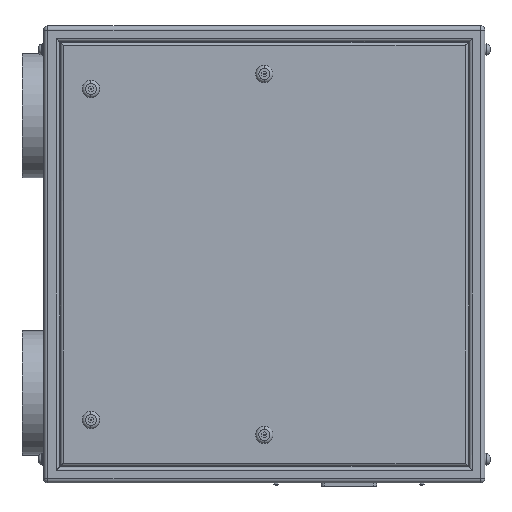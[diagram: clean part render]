
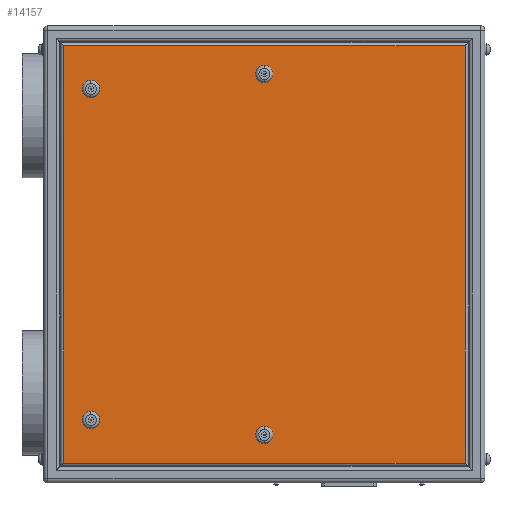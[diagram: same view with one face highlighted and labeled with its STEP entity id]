
A CAD part, left-side view. The second image highlights one B-rep face of the part: STEP entity #14157.
In plain terms, the highlighted planar face has unit normal (-1, 0, 0).
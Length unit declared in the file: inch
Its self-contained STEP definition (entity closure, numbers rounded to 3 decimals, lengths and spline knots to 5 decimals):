
#190 = DIRECTION ( 'NONE',  ( 0., 0., -1. ) ) ;
#276 = DIRECTION ( 'NONE',  ( 1., 0., 0. ) ) ;
#437 = CIRCLE ( 'NONE', #9013, 0.55 ) ;
#460 = CARTESIAN_POINT ( 'NONE',  ( -8.5, 0., -12. ) ) ;
#626 = VERTEX_POINT ( 'NONE', #3739 ) ;
#660 = VERTEX_POINT ( 'NONE', #9653 ) ;
#850 = EDGE_LOOP ( 'NONE', ( #14529, #3969 ) ) ;
#851 = DIRECTION ( 'NONE',  ( 1., 0., 0. ) ) ;
#923 = VECTOR ( 'NONE', #6138, 39.37008 ) ;
#1027 = ORIENTED_EDGE ( 'NONE', *, *, #13669, .T. ) ;
#1103 = VECTOR ( 'NONE', #6486, 39.37008 ) ;
#1503 = FACE_BOUND ( 'NONE', #850, .T. ) ;
#1541 = DIRECTION ( 'NONE',  ( 1., 0., 0. ) ) ;
#1548 = AXIS2_PLACEMENT_3D ( 'NONE', #13557, #276, #10054 ) ;
#1564 = CIRCLE ( 'NONE', #13370, 0.55 ) ;
#1652 = CARTESIAN_POINT ( 'NONE',  ( -8.5, 0., 10.9 ) ) ;
#1656 = FACE_BOUND ( 'NONE', #11781, .T. ) ;
#1672 = CIRCLE ( 'NONE', #15483, 0.55 ) ;
#1674 = VERTEX_POINT ( 'NONE', #3337 ) ;
#1727 = DIRECTION ( 'NONE',  ( 1., 0., 0. ) ) ;
#1826 = CIRCLE ( 'NONE', #8397, 0.55 ) ;
#2613 = DIRECTION ( 'NONE',  ( 0., 0., 1. ) ) ;
#2704 = FACE_BOUND ( 'NONE', #10019, .T. ) ;
#2719 = CARTESIAN_POINT ( 'NONE',  ( -8.5, 12.74, 13.24 ) ) ;
#2987 = LINE ( 'NONE', #13975, #13593 ) ;
#2995 = DIRECTION ( 'NONE',  ( 0., 0., 1. ) ) ;
#3218 = EDGE_CURVE ( 'NONE', #660, #1674, #2987, .T. ) ;
#3227 = DIRECTION ( 'NONE',  ( 0., -1., 0. ) ) ;
#3337 = CARTESIAN_POINT ( 'NONE',  ( -8.5, -12.74, -13.24 ) ) ;
#3526 = EDGE_LOOP ( 'NONE', ( #12932, #11842, #4748, #12027 ) ) ;
#3647 = EDGE_CURVE ( 'NONE', #626, #7407, #9641, .T. ) ;
#3736 = AXIS2_PLACEMENT_3D ( 'NONE', #6690, #8008, #4342 ) ;
#3739 = CARTESIAN_POINT ( 'NONE',  ( -8.5, 11., -11.05 ) ) ;
#3969 = ORIENTED_EDGE ( 'NONE', *, *, #14527, .F. ) ;
#4208 = PLANE ( 'NONE',  #11617 ) ;
#4342 = DIRECTION ( 'NONE',  ( 0., 0., -1. ) ) ;
#4748 = ORIENTED_EDGE ( 'NONE', *, *, #14707, .T. ) ;
#4930 = VERTEX_POINT ( 'NONE', #15482 ) ;
#5369 = DIRECTION ( 'NONE',  ( -1., 0., 0. ) ) ;
#5376 = CARTESIAN_POINT ( 'NONE',  ( -8.5, 0., -11.45 ) ) ;
#6138 = DIRECTION ( 'NONE',  ( 0., 0., -1. ) ) ;
#6223 = DIRECTION ( 'NONE',  ( 0., 0., -1. ) ) ;
#6360 = DIRECTION ( 'NONE',  ( 0., 0., -1. ) ) ;
#6471 = FACE_BOUND ( 'NONE', #14979, .T. ) ;
#6486 = DIRECTION ( 'NONE',  ( 0., 1., 0. ) ) ;
#6690 = CARTESIAN_POINT ( 'NONE',  ( -8.5, 0., 11.45 ) ) ;
#6736 = CIRCLE ( 'NONE', #3736, 0.55 ) ;
#6821 = ORIENTED_EDGE ( 'NONE', *, *, #11684, .T. ) ;
#6975 = EDGE_CURVE ( 'NONE', #9057, #8947, #1564, .T. ) ;
#7345 = AXIS2_PLACEMENT_3D ( 'NONE', #8406, #8470, #190 ) ;
#7407 = VERTEX_POINT ( 'NONE', #7557 ) ;
#7496 = FACE_OUTER_BOUND ( 'NONE', #3526, .T. ) ;
#7557 = CARTESIAN_POINT ( 'NONE',  ( -8.5, 11., -9.95 ) ) ;
#7622 = LINE ( 'NONE', #12413, #923 ) ;
#7689 = ORIENTED_EDGE ( 'NONE', *, *, #11206, .T. ) ;
#8008 = DIRECTION ( 'NONE',  ( 1., 0., 0. ) ) ;
#8012 = CARTESIAN_POINT ( 'NONE',  ( -8.5, 0., -10.9 ) ) ;
#8126 = EDGE_CURVE ( 'NONE', #15392, #15260, #9821, .T. ) ;
#8397 = AXIS2_PLACEMENT_3D ( 'NONE', #12355, #5369, #6223 ) ;
#8406 = CARTESIAN_POINT ( 'NONE',  ( -8.5, 11., -10.5 ) ) ;
#8470 = DIRECTION ( 'NONE',  ( -1., 0., 0. ) ) ;
#8471 = CARTESIAN_POINT ( 'NONE',  ( -8.5, 11., 10.5 ) ) ;
#8820 = CARTESIAN_POINT ( 'NONE',  ( -8.5, -12.74, 13.24 ) ) ;
#8881 = CARTESIAN_POINT ( 'NONE',  ( -8.5, 0., 11.45 ) ) ;
#8947 = VERTEX_POINT ( 'NONE', #13009 ) ;
#8992 = VECTOR ( 'NONE', #2613, 39.37008 ) ;
#9013 = AXIS2_PLACEMENT_3D ( 'NONE', #8471, #11941, #14199 ) ;
#9057 = VERTEX_POINT ( 'NONE', #1652 ) ;
#9101 = CARTESIAN_POINT ( 'NONE',  ( -8.5, 11., 9.95 ) ) ;
#9107 = ORIENTED_EDGE ( 'NONE', *, *, #6975, .T. ) ;
#9208 = ORIENTED_EDGE ( 'NONE', *, *, #10915, .T. ) ;
#9641 = CIRCLE ( 'NONE', #7345, 0.55 ) ;
#9653 = CARTESIAN_POINT ( 'NONE',  ( -8.5, 12.74, -13.24 ) ) ;
#9821 = CIRCLE ( 'NONE', #12829, 0.55 ) ;
#9849 = VERTEX_POINT ( 'NONE', #2719 ) ;
#10019 = EDGE_LOOP ( 'NONE', ( #6821, #9208 ) ) ;
#10054 = DIRECTION ( 'NONE',  ( 0., 0., 1. ) ) ;
#10063 = EDGE_CURVE ( 'NONE', #1674, #15232, #13376, .T. ) ;
#10176 = DIRECTION ( 'NONE',  ( 1., 0., 0. ) ) ;
#10360 = EDGE_CURVE ( 'NONE', #9849, #660, #7622, .T. ) ;
#10915 = EDGE_CURVE ( 'NONE', #4930, #14773, #1672, .T. ) ;
#11122 = DIRECTION ( 'NONE',  ( 0., 0., -1. ) ) ;
#11206 = EDGE_CURVE ( 'NONE', #8947, #9057, #6736, .T. ) ;
#11434 = LINE ( 'NONE', #12541, #1103 ) ;
#11617 = AXIS2_PLACEMENT_3D ( 'NONE', #13621, #1727, #11122 ) ;
#11684 = EDGE_CURVE ( 'NONE', #14773, #4930, #437, .T. ) ;
#11781 = EDGE_LOOP ( 'NONE', ( #1027, #14740 ) ) ;
#11842 = ORIENTED_EDGE ( 'NONE', *, *, #10063, .T. ) ;
#11941 = DIRECTION ( 'NONE',  ( 1., 0., 0. ) ) ;
#12027 = ORIENTED_EDGE ( 'NONE', *, *, #10360, .T. ) ;
#12355 = CARTESIAN_POINT ( 'NONE',  ( -8.5, 11., -10.5 ) ) ;
#12413 = CARTESIAN_POINT ( 'NONE',  ( -8.5, 12.74, -14.5 ) ) ;
#12541 = CARTESIAN_POINT ( 'NONE',  ( -8.5, 14., 13.24 ) ) ;
#12751 = CARTESIAN_POINT ( 'NONE',  ( -8.5, 11., 10.5 ) ) ;
#12829 = AXIS2_PLACEMENT_3D ( 'NONE', #5376, #10176, #2995 ) ;
#12932 = ORIENTED_EDGE ( 'NONE', *, *, #3218, .T. ) ;
#13009 = CARTESIAN_POINT ( 'NONE',  ( -8.5, 0., 12. ) ) ;
#13370 = AXIS2_PLACEMENT_3D ( 'NONE', #8881, #1541, #6360 ) ;
#13376 = LINE ( 'NONE', #14617, #8992 ) ;
#13557 = CARTESIAN_POINT ( 'NONE',  ( -8.5, 0., -11.45 ) ) ;
#13593 = VECTOR ( 'NONE', #3227, 39.37008 ) ;
#13621 = CARTESIAN_POINT ( 'NONE',  ( -8.5, 14., -14.5 ) ) ;
#13669 = EDGE_CURVE ( 'NONE', #15260, #15392, #15343, .T. ) ;
#13975 = CARTESIAN_POINT ( 'NONE',  ( -8.5, 14., -13.24 ) ) ;
#14157 = ADVANCED_FACE ( 'NONE', ( #1656, #6471, #1503, #2704, #7496 ), #4208, .F. ) ;
#14199 = DIRECTION ( 'NONE',  ( 0., 0., -1. ) ) ;
#14527 = EDGE_CURVE ( 'NONE', #7407, #626, #1826, .T. ) ;
#14529 = ORIENTED_EDGE ( 'NONE', *, *, #3647, .F. ) ;
#14617 = CARTESIAN_POINT ( 'NONE',  ( -8.5, -12.74, -14.5 ) ) ;
#14707 = EDGE_CURVE ( 'NONE', #15232, #9849, #11434, .T. ) ;
#14740 = ORIENTED_EDGE ( 'NONE', *, *, #8126, .T. ) ;
#14773 = VERTEX_POINT ( 'NONE', #9101 ) ;
#14979 = EDGE_LOOP ( 'NONE', ( #9107, #7689 ) ) ;
#15164 = DIRECTION ( 'NONE',  ( 0., 0., -1. ) ) ;
#15232 = VERTEX_POINT ( 'NONE', #8820 ) ;
#15260 = VERTEX_POINT ( 'NONE', #460 ) ;
#15343 = CIRCLE ( 'NONE', #1548, 0.55 ) ;
#15392 = VERTEX_POINT ( 'NONE', #8012 ) ;
#15482 = CARTESIAN_POINT ( 'NONE',  ( -8.5, 11., 11.05 ) ) ;
#15483 = AXIS2_PLACEMENT_3D ( 'NONE', #12751, #851, #15164 ) ;
